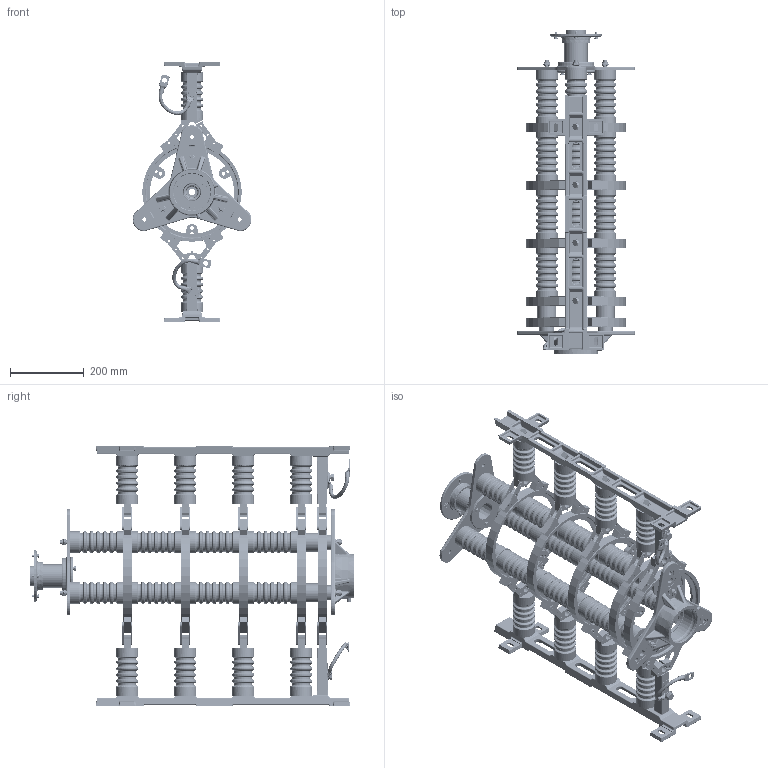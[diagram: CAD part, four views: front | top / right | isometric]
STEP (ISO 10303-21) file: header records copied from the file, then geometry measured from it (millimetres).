
FILE_DESCRIPTION(/* description */ (''),/* implementation_level */ '2;1');
FILE_NAME(/* name */ 'K:\NEMANJA\0700-6\CABLE REEL PART\0700-6\07 PSR\STP\77323 DB.stp',/* time_stamp */ '2017-12-01T11:58:00+01:00',/* author */ ('zeldjo01'),/* organization */ ('Hillmar Industries Ltd.'),/* preprocessor_version */ 'ST-DEVELOPER v16.1',/* originating_system */ 'Autodesk Inventor 2016',/* authorisation */ '');
FILE_SCHEMA (('AUTOMOTIVE_DESIGN { 1 0 10303 214 3 1 1 }'));
Products named in the file (1): 77323 PSR-06-10KV-5B-400A SLIPRING ASSEMBLY_Shrinkwrap_1
Bounding box: 322.51 x 879.3 x 706.14 mm (x, y, z)
Volume: 12344502.4 mm3; surface area: 1989337.5 mm2
Topology: 9 solids, 42 shells, 4700 faces, 11193 edges, 6653 vertices
Faces by surface type: cylinder 1657, plane 1460, torus 569, cone 513, bspline 305, sphere 196
Full cylindrical faces by diameter (mm): 4.917 x4, 5 x80, 5.459 x4, 6 x4, 6.647 x23, 7 x4, 7.323 x3, 8 x3, 8.376 x49, 8.7 x4, 9 x7, 9.188 x8, 10 x18, 10.106 x17, 10.5 x11, 11 x13, 11.053 x2, 11.4 x3, 12 x1, 13 x6, 13.5 x3, 15.4 x4, 15.6 x6, 16.5 x3, 17.2 x2, 17.5 x3, 18 x1, 20 x8, 23 x17, 24 x6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
Entity records: 139740 total; most frequent: CARTESIAN_POINT 32608, DIRECTION 22447, ORIENTED_EDGE 18952, EDGE_CURVE 9478, AXIS2_PLACEMENT_3D 9282, EDGE_LOOP 6611, VERTEX_POINT 6397, STYLED_ITEM 4709
